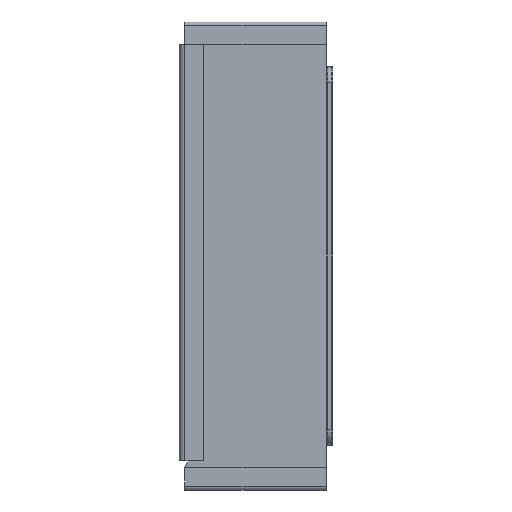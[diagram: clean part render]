
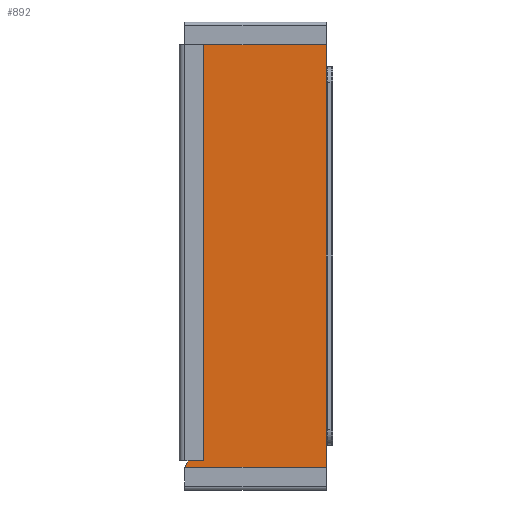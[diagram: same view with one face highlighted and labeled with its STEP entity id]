
A CAD part, left-side view. The second image highlights one B-rep face of the part: STEP entity #892.
In plain terms, the highlighted planar face has unit normal (-1, 0, 0).
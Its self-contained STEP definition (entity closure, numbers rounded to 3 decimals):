
#132=DIRECTION('',(0.,0.,1.));
#133=VECTOR('',#132,60.);
#134=CARTESIAN_POINT('',(0.,0.8,-66.5));
#135=LINE('',#134,#133);
#227=CARTESIAN_POINT('',(0.,20.7,-70.5));
#228=DIRECTION('',(-1.,0.,0.));
#229=DIRECTION('',(0.,0.8,0.6));
#230=AXIS2_PLACEMENT_3D('',#227,#228,#229);
#232=DIRECTION('',(0.,0.,-1.));
#233=VECTOR('',#232,13.);
#234=CARTESIAN_POINT('',(0.,22.7,-56.));
#235=LINE('',#234,#233);
#236=CARTESIAN_POINT('',(0.,20.7,-54.5));
#237=DIRECTION('',(-1.,0.,0.));
#238=DIRECTION('',(0.,1.,0.));
#239=AXIS2_PLACEMENT_3D('',#236,#237,#238);
#241=DIRECTION('',(0.,0.,1.));
#242=VECTOR('',#241,34.);
#243=CARTESIAN_POINT('',(0.,23.2,-54.5));
#244=LINE('',#243,#242);
#245=CARTESIAN_POINT('',(0.,20.7,-20.5));
#246=DIRECTION('',(-1.,0.,0.));
#247=DIRECTION('',(0.,0.8,0.6));
#248=AXIS2_PLACEMENT_3D('',#245,#246,#247);
#250=DIRECTION('',(0.,0.,-1.));
#251=VECTOR('',#250,13.);
#252=CARTESIAN_POINT('',(0.,22.7,-6.));
#253=LINE('',#252,#251);
#254=CARTESIAN_POINT('',(0.,20.7,-4.5));
#255=DIRECTION('',(-1.,0.,0.));
#256=DIRECTION('',(0.,1.,0.));
#257=AXIS2_PLACEMENT_3D('',#254,#255,#256);
#259=DIRECTION('',(0.,0.,1.));
#260=VECTOR('',#259,4.5);
#261=CARTESIAN_POINT('',(0.,23.2,-4.5));
#262=LINE('',#261,#260);
#263=DIRECTION('',(0.,0.,1.));
#264=VECTOR('',#263,6.5);
#265=CARTESIAN_POINT('',(0.,0.8,-6.5));
#266=LINE('',#265,#264);
#267=DIRECTION('',(0.,0.,1.));
#268=VECTOR('',#267,6.5);
#269=CARTESIAN_POINT('',(0.,0.8,-73.));
#270=LINE('',#269,#268);
#271=DIRECTION('',(0.,0.,1.));
#272=VECTOR('',#271,2.5);
#273=CARTESIAN_POINT('',(0.,23.2,-73.));
#274=LINE('',#273,#272);
#365=DIRECTION('',(0.,-1.,0.));
#366=VECTOR('',#365,22.4);
#367=CARTESIAN_POINT('',(0.,23.2,0.));
#368=LINE('',#367,#366);
#439=DIRECTION('',(0.,1.,0.));
#440=VECTOR('',#439,22.4);
#441=CARTESIAN_POINT('',(0.,0.8,-73.));
#442=LINE('',#441,#440);
#451=CARTESIAN_POINT('',(0.,23.2,0.));
#453=VERTEX_POINT('',#451);
#455=CARTESIAN_POINT('',(0.,23.2,-73.));
#457=VERTEX_POINT('',#455);
#459=CARTESIAN_POINT('',(0.,0.8,-73.));
#460=CARTESIAN_POINT('',(0.,0.8,-66.5));
#461=VERTEX_POINT('',#459);
#462=VERTEX_POINT('',#460);
#463=CARTESIAN_POINT('',(0.,0.8,-6.5));
#464=CARTESIAN_POINT('',(0.,0.8,0.));
#465=VERTEX_POINT('',#463);
#466=VERTEX_POINT('',#464);
#539=CARTESIAN_POINT('',(0.,22.7,-69.));
#540=CARTESIAN_POINT('',(0.,23.2,-70.5));
#541=VERTEX_POINT('',#539);
#542=VERTEX_POINT('',#540);
#547=CARTESIAN_POINT('',(0.,23.2,-54.5));
#548=CARTESIAN_POINT('',(0.,22.7,-56.));
#549=VERTEX_POINT('',#547);
#550=VERTEX_POINT('',#548);
#555=CARTESIAN_POINT('',(0.,22.7,-19.));
#556=CARTESIAN_POINT('',(0.,23.2,-20.5));
#557=VERTEX_POINT('',#555);
#558=VERTEX_POINT('',#556);
#563=CARTESIAN_POINT('',(0.,23.2,-4.5));
#564=CARTESIAN_POINT('',(0.,22.7,-6.));
#565=VERTEX_POINT('',#563);
#566=VERTEX_POINT('',#564);
#859=CARTESIAN_POINT('',(0.,0.,0.));
#860=DIRECTION('',(1.,0.,0.));
#861=DIRECTION('',(0.,1.,0.));
#862=AXIS2_PLACEMENT_3D('',#859,#860,#861);
#863=PLANE('',#862);
#864=ORIENTED_EDGE('',*,*,#849,.F.);
#866=ORIENTED_EDGE('',*,*,#865,.F.);
#868=ORIENTED_EDGE('',*,*,#867,.F.);
#870=ORIENTED_EDGE('',*,*,#869,.T.);
#872=ORIENTED_EDGE('',*,*,#871,.F.);
#874=ORIENTED_EDGE('',*,*,#873,.F.);
#876=ORIENTED_EDGE('',*,*,#875,.F.);
#878=ORIENTED_EDGE('',*,*,#877,.T.);
#880=ORIENTED_EDGE('',*,*,#879,.T.);
#882=ORIENTED_EDGE('',*,*,#881,.F.);
#883=ORIENTED_EDGE('',*,*,#736,.F.);
#885=ORIENTED_EDGE('',*,*,#884,.F.);
#887=ORIENTED_EDGE('',*,*,#886,.T.);
#889=ORIENTED_EDGE('',*,*,#888,.T.);
#890=EDGE_LOOP('',(#864,#866,#868,#870,#872,#874,#876,#878,#880,#882,#883,#885,
#887,#889));
#891=FACE_OUTER_BOUND('',#890,.F.);
#231=CIRCLE('',#230,2.5);
#240=CIRCLE('',#239,2.5);
#249=CIRCLE('',#248,2.5);
#258=CIRCLE('',#257,2.5);
#736=EDGE_CURVE('',#462,#465,#135,.T.);
#849=EDGE_CURVE('',#541,#542,#231,.T.);
#865=EDGE_CURVE('',#550,#541,#235,.T.);
#867=EDGE_CURVE('',#549,#550,#240,.T.);
#869=EDGE_CURVE('',#549,#558,#244,.T.);
#871=EDGE_CURVE('',#557,#558,#249,.T.);
#873=EDGE_CURVE('',#566,#557,#253,.T.);
#875=EDGE_CURVE('',#565,#566,#258,.T.);
#877=EDGE_CURVE('',#565,#453,#262,.T.);
#879=EDGE_CURVE('',#453,#466,#368,.T.);
#881=EDGE_CURVE('',#465,#466,#266,.T.);
#884=EDGE_CURVE('',#461,#462,#270,.T.);
#886=EDGE_CURVE('',#461,#457,#442,.T.);
#888=EDGE_CURVE('',#457,#542,#274,.T.);
#892=ADVANCED_FACE('',(#891),#863,.F.);
